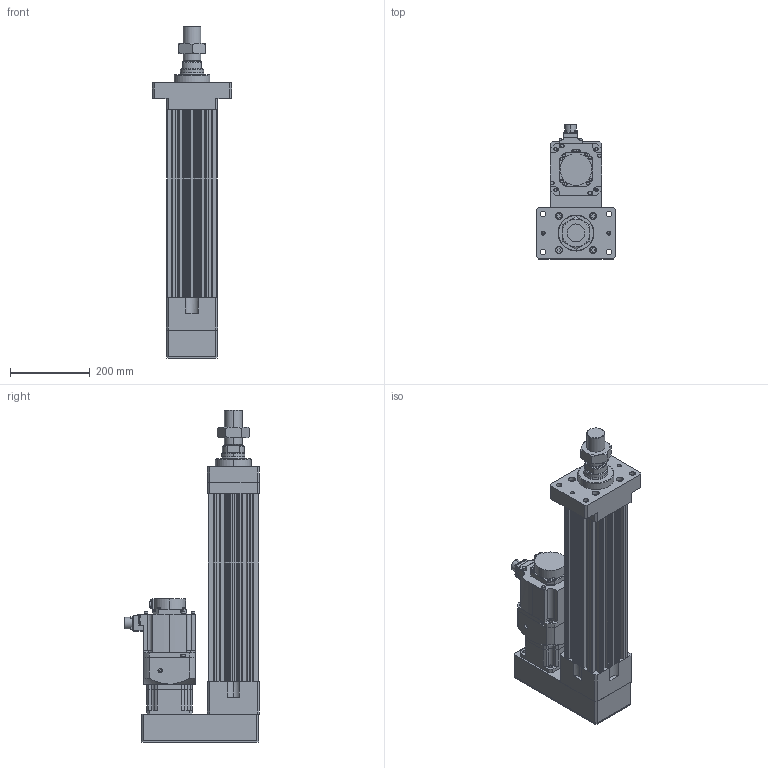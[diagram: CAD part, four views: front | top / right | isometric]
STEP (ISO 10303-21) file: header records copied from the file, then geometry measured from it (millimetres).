
FILE_DESCRIPTION (( 'STEP AP203' ), '1' );
FILE_NAME ('HES130NS(FS)(HS)-P250-W015G00-M-FMA.STEP', '2023-01-29T04:36:53', ( 'tms' ), ( '' ), 'SwSTEP 2.0', 'SolidWorks 2013', '' );
FILE_SCHEMA (( 'CONFIG_CONTROL_DESIGN' ));
Length unit declared in the file: millimetre
Products named in the file (8): AB1151; HES130NS(FS)(HS)-P250-W015G00-M-FMA; AB115-003[HG-SR152]; P0401400706; HES130 ROD M ST250; HG-SR152; HES130-P250-G120-FMA; M45X1.5P
Assembly tree (7 placements, depth 3):
  HES130NS(FS)(HS)-P250-W015G00-M-FMA
    HES130-P250-G120-FMA
    HES130 ROD M ST250
    M45X1.5P
    AB115-003[HG-SR152]
      AB1151
      P0401400706
    HG-SR152
Bounding box: 200 x 337.49 x 832 mm (x, y, z)
Volume: 10435630 mm3; surface area: 1186011 mm2
Topology: 4 solids, 11 shells, 1082 faces, 2768 edges, 1799 vertices
Faces by surface type: cylinder 513, plane 489, cone 68, bspline 8, torus 4
Entity records: 34626 total; most frequent: CARTESIAN_POINT 6632, DIRECTION 5993, ORIENTED_EDGE 5484, EDGE_CURVE 2752, AXIS2_PLACEMENT_3D 2228, VERTEX_POINT 1799, LINE 1537, VECTOR 1537
